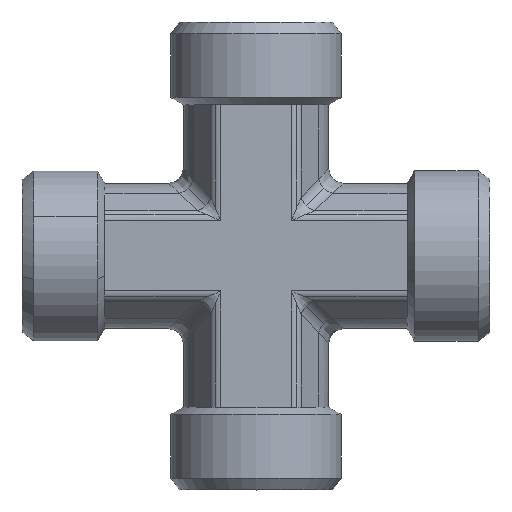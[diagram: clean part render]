
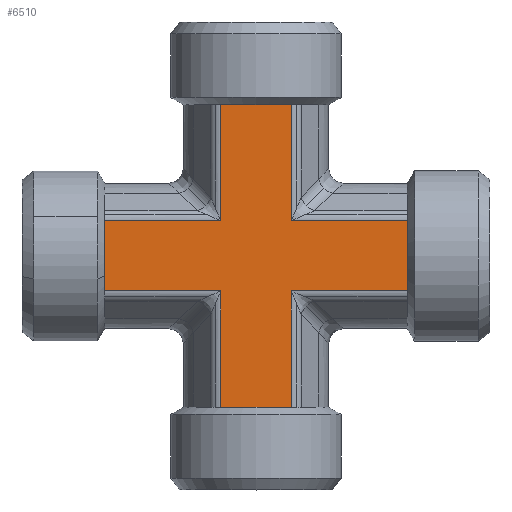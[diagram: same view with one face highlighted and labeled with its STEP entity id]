
A CAD part, top view. The second image highlights one B-rep face of the part: STEP entity #6510.
In plain terms, the highlighted planar face has unit normal (0, 0, 1) as drawn and (0, -1, 0) by its records, which use the part's own axes.
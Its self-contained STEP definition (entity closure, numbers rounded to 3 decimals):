
#361=CARTESIAN_POINT('',(0.003,-9.3,4.503));
#362=VERTEX_POINT('',#361);
#370=CARTESIAN_POINT('',(14.9,-9.3,4.503));
#371=VERTEX_POINT('',#370);
#372=CARTESIAN_POINT('',(0.003,-9.3,4.503));
#373=DIRECTION('',(1.0,0.0,0.0));
#374=VECTOR('',#373,14.897);
#375=LINE('',#372,#374);
#376=EDGE_CURVE('',#362,#371,#375,.T.);
#445=CARTESIAN_POINT('',(0.003,-9.3,-4.503));
#446=VERTEX_POINT('',#445);
#454=CARTESIAN_POINT('',(0.003,-9.3,-19.4));
#455=VERTEX_POINT('',#454);
#456=CARTESIAN_POINT('',(0.003,-9.3,-4.503));
#457=DIRECTION('',(0.0,0.0,-1.0));
#458=VECTOR('',#457,14.897);
#459=LINE('',#456,#458);
#460=EDGE_CURVE('',#446,#455,#459,.T.);
#487=CARTESIAN_POINT('',(-9.003,-9.3,4.503));
#488=VERTEX_POINT('',#487);
#496=CARTESIAN_POINT('',(-9.003,-9.3,19.4));
#497=VERTEX_POINT('',#496);
#498=CARTESIAN_POINT('',(-9.003,-9.3,4.503));
#499=DIRECTION('',(0.0,0.0,1.0));
#500=VECTOR('',#499,14.897);
#501=LINE('',#498,#500);
#502=EDGE_CURVE('',#488,#497,#501,.T.);
#529=CARTESIAN_POINT('',(-23.9,-9.3,4.503));
#530=VERTEX_POINT('',#529);
#538=CARTESIAN_POINT('',(-23.9,-9.3,4.503));
#539=DIRECTION('',(1.0,0.0,0.0));
#540=VECTOR('',#539,14.897);
#541=LINE('',#538,#540);
#542=EDGE_CURVE('',#530,#488,#541,.T.);
#611=CARTESIAN_POINT('',(-9.003,-9.3,-4.503));
#612=VERTEX_POINT('',#611);
#620=CARTESIAN_POINT('',(-23.9,-9.3,-4.503));
#621=VERTEX_POINT('',#620);
#622=CARTESIAN_POINT('',(-9.003,-9.3,-4.503));
#623=DIRECTION('',(-1.0,0.0,0.0));
#624=VECTOR('',#623,14.897);
#625=LINE('',#622,#624);
#626=EDGE_CURVE('',#612,#621,#625,.T.);
#1520=CARTESIAN_POINT('',(-23.9,-9.3,0.));
#1521=VERTEX_POINT('',#1520);
#1821=CARTESIAN_POINT('',(-4.5,-9.3,19.4));
#1822=VERTEX_POINT('',#1821);
#2173=CARTESIAN_POINT('',(14.9,-9.3,0.));
#2174=VERTEX_POINT('',#2173);
#3138=CARTESIAN_POINT('',(-4.5,-9.3,-19.4));
#3139=VERTEX_POINT('',#3138);
#3262=CARTESIAN_POINT('',(-4.5,-9.3,-19.4));
#3263=DIRECTION('',(1.0,0.0,0.0));
#3264=VECTOR('',#3263,4.503);
#3265=LINE('',#3262,#3264);
#3266=EDGE_CURVE('',#3139,#455,#3265,.T.);
#3277=CARTESIAN_POINT('',(-9.003,-9.3,-19.4));
#3278=VERTEX_POINT('',#3277);
#3279=CARTESIAN_POINT('',(-9.003,-9.3,-19.4));
#3280=DIRECTION('',(1.0,0.0,0.0));
#3281=VECTOR('',#3280,4.503);
#3282=LINE('',#3279,#3281);
#3283=EDGE_CURVE('',#3278,#3139,#3282,.T.);
#3568=CARTESIAN_POINT('',(14.9,-9.3,-4.503));
#3569=VERTEX_POINT('',#3568);
#3570=CARTESIAN_POINT('',(14.9,-9.3,-4.503));
#3571=DIRECTION('',(0.0,0.0,1.0));
#3572=VECTOR('',#3571,4.503);
#3573=LINE('',#3570,#3572);
#3574=EDGE_CURVE('',#3569,#2174,#3573,.T.);
#3615=CARTESIAN_POINT('',(14.9,-9.3,0.));
#3616=DIRECTION('',(0.0,0.0,1.0));
#3617=VECTOR('',#3616,4.503);
#3618=LINE('',#3615,#3617);
#3619=EDGE_CURVE('',#2174,#371,#3618,.T.);
#3932=CARTESIAN_POINT('',(0.003,-9.3,19.4));
#3933=VERTEX_POINT('',#3932);
#3934=CARTESIAN_POINT('',(0.003,-9.3,19.4));
#3935=DIRECTION('',(-1.0,0.0,0.0));
#3936=VECTOR('',#3935,4.503);
#3937=LINE('',#3934,#3936);
#3938=EDGE_CURVE('',#3933,#1822,#3937,.T.);
#3979=CARTESIAN_POINT('',(-4.5,-9.3,19.4));
#3980=DIRECTION('',(-1.0,0.0,0.0));
#3981=VECTOR('',#3980,4.503);
#3982=LINE('',#3979,#3981);
#3983=EDGE_CURVE('',#1822,#497,#3982,.T.);
#4277=CARTESIAN_POINT('',(-23.9,-9.3,4.503));
#4278=DIRECTION('',(0.0,0.0,-1.0));
#4279=VECTOR('',#4278,4.503);
#4280=LINE('',#4277,#4279);
#4281=EDGE_CURVE('',#530,#1521,#4280,.T.);
#4324=CARTESIAN_POINT('',(-23.9,-9.3,0.));
#4325=DIRECTION('',(0.0,0.0,-1.0));
#4326=VECTOR('',#4325,4.503);
#4327=LINE('',#4324,#4326);
#4328=EDGE_CURVE('',#1521,#621,#4327,.T.);
#6472=CARTESIAN_POINT('',(-4.5,-9.3,-5.369));
#6473=DIRECTION('',(0.0,-1.0,0.0));
#6474=DIRECTION('',(0.0,0.0,-1.0));
#6475=AXIS2_PLACEMENT_3D('',#6472,#6473,#6474);
#6476=PLANE('',#6475);
#6477=ORIENTED_EDGE('',*,*,#626,.F.);
#6478=CARTESIAN_POINT('',(-9.003,-9.3,-4.503));
#6479=DIRECTION('',(0.0,0.0,-1.0));
#6480=VECTOR('',#6479,14.897);
#6481=LINE('',#6478,#6480);
#6482=EDGE_CURVE('',#612,#3278,#6481,.T.);
#6483=ORIENTED_EDGE('',*,*,#6482,.T.);
#6484=ORIENTED_EDGE('',*,*,#3283,.T.);
#6485=ORIENTED_EDGE('',*,*,#3266,.T.);
#6486=ORIENTED_EDGE('',*,*,#460,.F.);
#6487=CARTESIAN_POINT('',(0.003,-9.3,-4.503));
#6488=DIRECTION('',(1.0,0.0,0.0));
#6489=VECTOR('',#6488,14.897);
#6490=LINE('',#6487,#6489);
#6491=EDGE_CURVE('',#446,#3569,#6490,.T.);
#6492=ORIENTED_EDGE('',*,*,#6491,.T.);
#6493=ORIENTED_EDGE('',*,*,#3574,.T.);
#6494=ORIENTED_EDGE('',*,*,#3619,.T.);
#6495=ORIENTED_EDGE('',*,*,#376,.F.);
#6496=CARTESIAN_POINT('',(0.003,-9.3,4.503));
#6497=DIRECTION('',(0.0,0.0,1.0));
#6498=VECTOR('',#6497,14.897);
#6499=LINE('',#6496,#6498);
#6500=EDGE_CURVE('',#362,#3933,#6499,.T.);
#6501=ORIENTED_EDGE('',*,*,#6500,.T.);
#6502=ORIENTED_EDGE('',*,*,#3938,.T.);
#6503=ORIENTED_EDGE('',*,*,#3983,.T.);
#6504=ORIENTED_EDGE('',*,*,#502,.F.);
#6505=ORIENTED_EDGE('',*,*,#542,.F.);
#6506=ORIENTED_EDGE('',*,*,#4281,.T.);
#6507=ORIENTED_EDGE('',*,*,#4328,.T.);
#6508=EDGE_LOOP('',(#6477,#6483,#6484,#6485,#6486,#6492,#6493,#6494,#6495,#6501,#6502,#6503,#6504,#6505,#6506,#6507));
#6509=FACE_OUTER_BOUND('',#6508,.T.);
#6510=ADVANCED_FACE('',(#6509),#6476,.T.);
